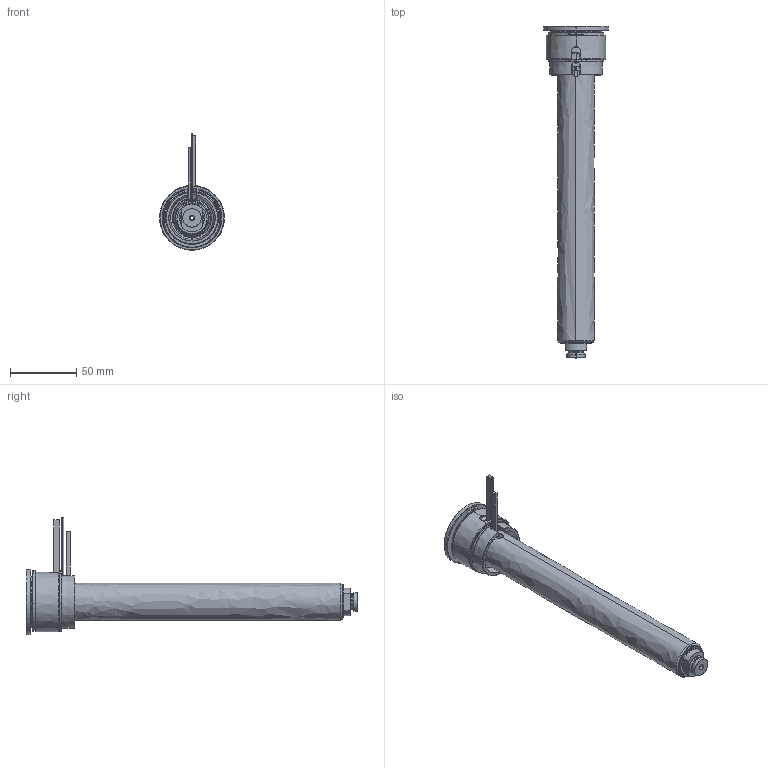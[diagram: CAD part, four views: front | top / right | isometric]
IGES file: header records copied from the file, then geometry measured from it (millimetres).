
Start section: SolidWorks IGES file using analytic representation for surfaces
Global section: file name: C:\Documents and Settings\ws-20\Desktop\TEM\UGBE4505-S-A-5 [Ød-2.5 P-0 ØC-09].IGS; native system: SolidWorks 2012; preprocessor: SolidWorks 2012; author: ws-20; date: 120412.153722; units: millimetre
Bounding box: 49 x 251 x 88.15 mm (x, y, z)
Surface area: 84011 mm2 (no closed solid volume)
Topology: 0 solids, 0 shells, 166 faces, 3205 edges, 3205 vertices
Faces by surface type: revolution 104, bspline 62
